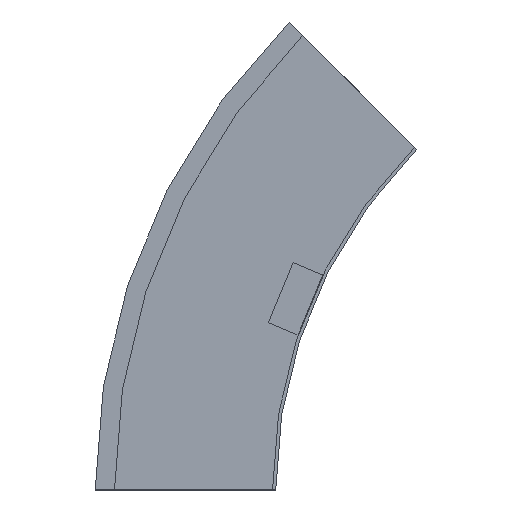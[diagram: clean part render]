
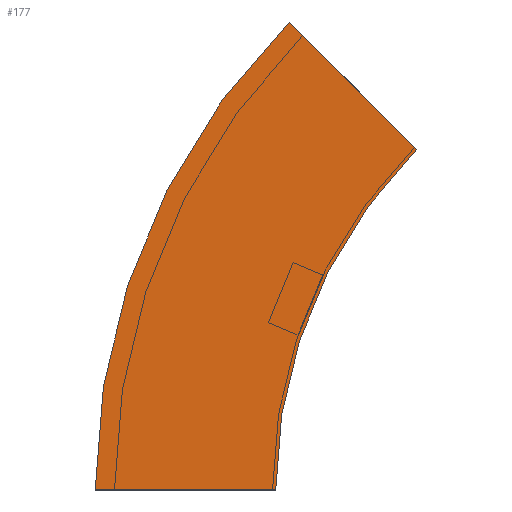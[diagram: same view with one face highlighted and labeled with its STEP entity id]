
A CAD part, left-side view. The second image highlights one B-rep face of the part: STEP entity #177.
In plain terms, the highlighted planar face has unit normal (-1, 0, 0) as drawn and (1, 0, 0) by its records, which use the part's own axes.
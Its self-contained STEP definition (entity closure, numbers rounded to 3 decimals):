
#16 = VECTOR ( 'NONE', #255, 1000. ) ;
#34 = LINE ( 'NONE', #266, #291 ) ;
#39 = AXIS2_PLACEMENT_3D ( 'NONE', #73, #63, #69 ) ;
#41 = CARTESIAN_POINT ( 'NONE',  ( 0., -300., 0. ) ) ;
#63 = DIRECTION ( 'NONE',  ( 1., 0., 0. ) ) ;
#69 = DIRECTION ( 'NONE',  ( 0., 1., 0. ) ) ;
#72 = VERTEX_POINT ( 'NONE', #563 ) ;
#73 = CARTESIAN_POINT ( 'NONE',  ( 0., -300., 0. ) ) ;
#82 = CARTESIAN_POINT ( 'NONE',  ( 0., -87.868, 212.132 ) ) ;
#149 = VERTEX_POINT ( 'NONE', #319 ) ;
#176 = DIRECTION ( 'NONE',  ( 0., 1., 0. ) ) ;
#177 = ADVANCED_FACE ( 'NONE', ( #481 ), #388, .T. ) ;
#189 = DIRECTION ( 'NONE',  ( 1., 0., 0. ) ) ;
#190 = EDGE_CURVE ( 'NONE', #72, #472, #349, .T. ) ;
#234 = VERTEX_POINT ( 'NONE', #82 ) ;
#255 = DIRECTION ( 'NONE',  ( 0., 0.707, 0.707 ) ) ;
#266 = CARTESIAN_POINT ( 'NONE',  ( 0., 0., 0. ) ) ;
#270 = DIRECTION ( 'NONE',  ( 1., 0., 0. ) ) ;
#291 = VECTOR ( 'NONE', #502, 1000. ) ;
#294 = CARTESIAN_POINT ( 'NONE',  ( 0., -87.868, 212.132 ) ) ;
#297 = CIRCLE ( 'NONE', #39, 300. ) ;
#319 = CARTESIAN_POINT ( 'NONE',  ( 0., 0., 0. ) ) ;
#326 = EDGE_CURVE ( 'NONE', #149, #72, #34, .T. ) ;
#349 = CIRCLE ( 'NONE', #422, 412.5 ) ;
#356 = ORIENTED_EDGE ( 'NONE', *, *, #326, .T. ) ;
#361 = AXIS2_PLACEMENT_3D ( 'NONE', #441, #270, #520 ) ;
#373 = CARTESIAN_POINT ( 'NONE',  ( 0., -8.318, 291.682 ) ) ;
#388 = PLANE ( 'NONE',  #361 ) ;
#406 = EDGE_CURVE ( 'NONE', #149, #234, #297, .T. ) ;
#422 = AXIS2_PLACEMENT_3D ( 'NONE', #41, #189, #176 ) ;
#437 = ORIENTED_EDGE ( 'NONE', *, *, #190, .T. ) ;
#441 = CARTESIAN_POINT ( 'NONE',  ( 0., 0., 0. ) ) ;
#461 = EDGE_LOOP ( 'NONE', ( #437, #482, #524, #356 ) ) ;
#472 = VERTEX_POINT ( 'NONE', #373 ) ;
#481 = FACE_OUTER_BOUND ( 'NONE', #461, .T. ) ;
#482 = ORIENTED_EDGE ( 'NONE', *, *, #528, .F. ) ;
#492 = LINE ( 'NONE', #294, #16 ) ;
#502 = DIRECTION ( 'NONE',  ( 0., 1., 0. ) ) ;
#520 = DIRECTION ( 'NONE',  ( 0., 0., -1. ) ) ;
#524 = ORIENTED_EDGE ( 'NONE', *, *, #406, .F. ) ;
#528 = EDGE_CURVE ( 'NONE', #234, #472, #492, .T. ) ;
#563 = CARTESIAN_POINT ( 'NONE',  ( 0., 112.5, 0. ) ) ;
